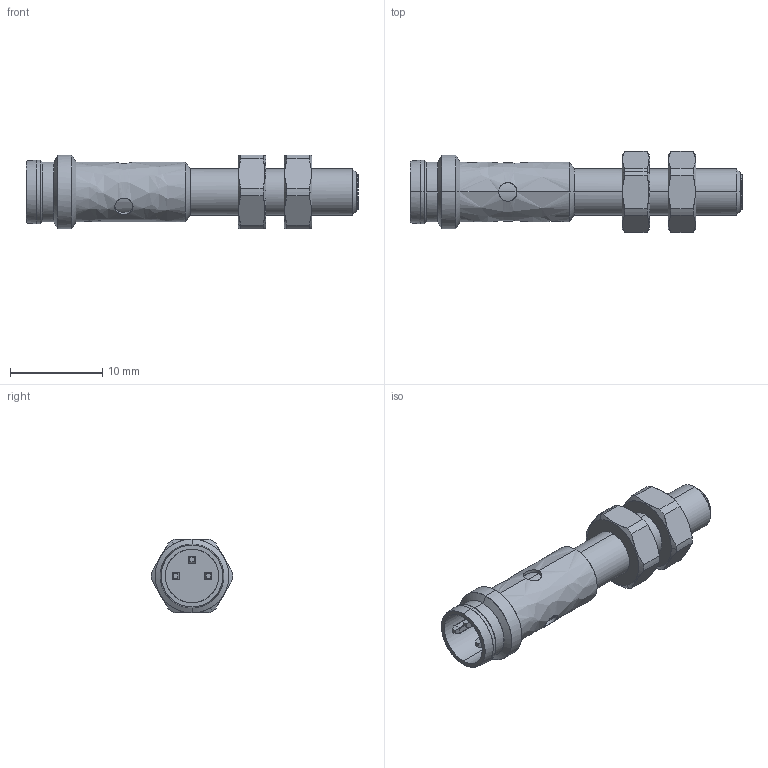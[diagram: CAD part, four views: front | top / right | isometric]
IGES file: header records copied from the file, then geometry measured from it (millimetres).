
Start section: Comment
Global section: file name: IFRM 05xxxA3_S35L.igs; native system:  By Spatial Corp.; preprocessor: XPlus GENERIC/IGES 3.0; author: Author; organization: Title; date: 20040805.075235; units: inch
Bounding box: 35.98 x 8.8 x 8 mm (x, y, z)
Surface area: 1257.2 mm2 (no closed solid volume)
Topology: 0 solids, 0 shells, 131 faces, 632 edges, 632 vertices
Faces by surface type: bspline 131
